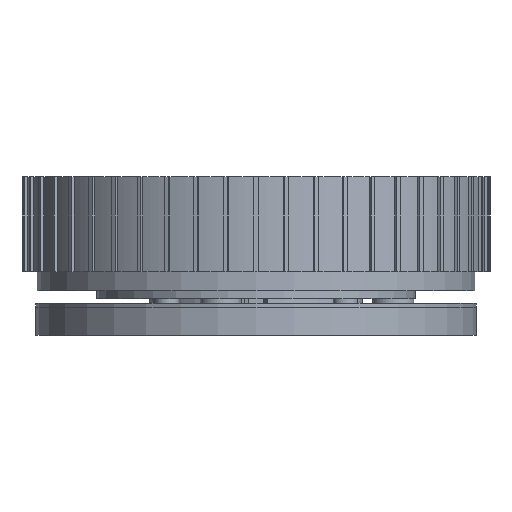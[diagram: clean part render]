
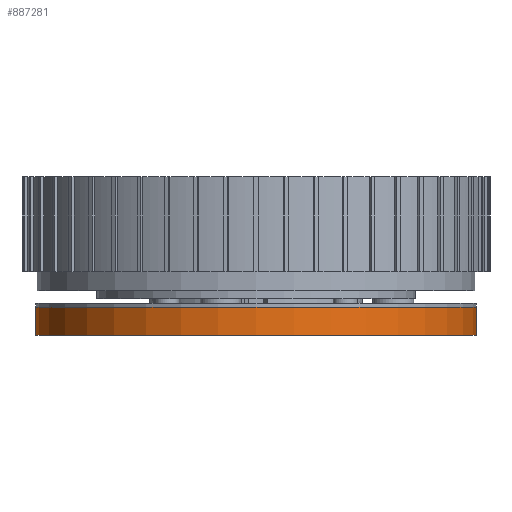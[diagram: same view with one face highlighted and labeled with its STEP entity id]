
A CAD part, front view. The second image highlights one B-rep face of the part: STEP entity #887281.
In plain terms, the highlighted cylindrical face has radius 29 mm (diameter 58 mm), a full revolution.
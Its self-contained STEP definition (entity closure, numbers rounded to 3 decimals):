
#886628 = EDGE_CURVE('',#886629,#886629,#886631,.T.);
#886629 = VERTEX_POINT('',#886630);
#886630 = CARTESIAN_POINT('',(29.,0.,0.2));
#886631 = SURFACE_CURVE('',#886632,(#886637,#886649),.PCURVE_S1.);
#886632 = CIRCLE('',#886633,29.);
#886633 = AXIS2_PLACEMENT_3D('',#886634,#886635,#886636);
#886634 = CARTESIAN_POINT('',(0.,0.,0.2));
#886635 = DIRECTION('',(0.,0.,1.));
#886636 = DIRECTION('',(1.,0.,-0.));
#886637 = PCURVE('',#886638,#886643);
#886638 = PLANE('',#886639);
#886639 = AXIS2_PLACEMENT_3D('',#886640,#886641,#886642);
#886640 = CARTESIAN_POINT('',(0.,0.,0.2
    ));
#886641 = DIRECTION('',(0.,0.,1.));
#886642 = DIRECTION('',(1.,0.,-0.));
#886643 = DEFINITIONAL_REPRESENTATION('',(#886644),#886648);
#886644 = CIRCLE('',#886645,29.);
#886645 = AXIS2_PLACEMENT_2D('',#886646,#886647);
#886646 = CARTESIAN_POINT('',(0.,0.));
#886647 = DIRECTION('',(1.,0.));
#886648 = ( GEOMETRIC_REPRESENTATION_CONTEXT(2) 
PARAMETRIC_REPRESENTATION_CONTEXT() REPRESENTATION_CONTEXT('2D SPACE',''
  ) );
#886649 = PCURVE('',#886650,#886655);
#886650 = CYLINDRICAL_SURFACE('',#886651,29.);
#886651 = AXIS2_PLACEMENT_3D('',#886652,#886653,#886654);
#886652 = CARTESIAN_POINT('',(0.,0.,0.8));
#886653 = DIRECTION('',(-0.,-0.,-1.));
#886654 = DIRECTION('',(1.,0.,0.));
#886655 = DEFINITIONAL_REPRESENTATION('',(#886656),#886660);
#886656 = LINE('',#886657,#886658);
#886657 = CARTESIAN_POINT('',(6.283,0.6));
#886658 = VECTOR('',#886659,1.);
#886659 = DIRECTION('',(-1.,0.));
#886660 = ( GEOMETRIC_REPRESENTATION_CONTEXT(2) 
PARAMETRIC_REPRESENTATION_CONTEXT() REPRESENTATION_CONTEXT('2D SPACE',''
  ) );
#887281 = ADVANCED_FACE('',(#887282),#886650,.T.);
#887282 = FACE_BOUND('',#887283,.T.);
#887283 = EDGE_LOOP('',(#887284,#887285,#887308,#887335));
#887284 = ORIENTED_EDGE('',*,*,#886628,.T.);
#887285 = ORIENTED_EDGE('',*,*,#887286,.T.);
#887286 = EDGE_CURVE('',#886629,#887287,#887289,.T.);
#887287 = VERTEX_POINT('',#887288);
#887288 = CARTESIAN_POINT('',(29.,0.,3.9));
#887289 = SEAM_CURVE('',#887290,(#887294,#887301),.PCURVE_S1.);
#887290 = LINE('',#887291,#887292);
#887291 = CARTESIAN_POINT('',(29.,0.,0.2));
#887292 = VECTOR('',#887293,1.);
#887293 = DIRECTION('',(0.,0.,1.));
#887294 = PCURVE('',#886650,#887295);
#887295 = DEFINITIONAL_REPRESENTATION('',(#887296),#887300);
#887296 = LINE('',#887297,#887298);
#887297 = CARTESIAN_POINT('',(6.283,0.6));
#887298 = VECTOR('',#887299,1.);
#887299 = DIRECTION('',(-0.,-1.));
#887300 = ( GEOMETRIC_REPRESENTATION_CONTEXT(2) 
PARAMETRIC_REPRESENTATION_CONTEXT() REPRESENTATION_CONTEXT('2D SPACE',''
  ) );
#887301 = PCURVE('',#886650,#887302);
#887302 = DEFINITIONAL_REPRESENTATION('',(#887303),#887307);
#887303 = LINE('',#887304,#887305);
#887304 = CARTESIAN_POINT('',(0.,0.6));
#887305 = VECTOR('',#887306,1.);
#887306 = DIRECTION('',(-0.,-1.));
#887307 = ( GEOMETRIC_REPRESENTATION_CONTEXT(2) 
PARAMETRIC_REPRESENTATION_CONTEXT() REPRESENTATION_CONTEXT('2D SPACE',''
  ) );
#887308 = ORIENTED_EDGE('',*,*,#887309,.F.);
#887309 = EDGE_CURVE('',#887287,#887287,#887310,.T.);
#887310 = SURFACE_CURVE('',#887311,(#887316,#887323),.PCURVE_S1.);
#887311 = CIRCLE('',#887312,29.);
#887312 = AXIS2_PLACEMENT_3D('',#887313,#887314,#887315);
#887313 = CARTESIAN_POINT('',(0.,0.,3.9));
#887314 = DIRECTION('',(0.,0.,1.));
#887315 = DIRECTION('',(1.,0.,-0.));
#887316 = PCURVE('',#886650,#887317);
#887317 = DEFINITIONAL_REPRESENTATION('',(#887318),#887322);
#887318 = LINE('',#887319,#887320);
#887319 = CARTESIAN_POINT('',(6.283,-3.1));
#887320 = VECTOR('',#887321,1.);
#887321 = DIRECTION('',(-1.,0.));
#887322 = ( GEOMETRIC_REPRESENTATION_CONTEXT(2) 
PARAMETRIC_REPRESENTATION_CONTEXT() REPRESENTATION_CONTEXT('2D SPACE',''
  ) );
#887323 = PCURVE('',#887324,#887329);
#887324 = CYLINDRICAL_SURFACE('',#887325,29.);
#887325 = AXIS2_PLACEMENT_3D('',#887326,#887327,#887328);
#887326 = CARTESIAN_POINT('',(0.,0.,0.2));
#887327 = DIRECTION('',(-0.,-0.,-1.));
#887328 = DIRECTION('',(1.,0.,0.));
#887329 = DEFINITIONAL_REPRESENTATION('',(#887330),#887334);
#887330 = LINE('',#887331,#887332);
#887331 = CARTESIAN_POINT('',(-0.,-3.7));
#887332 = VECTOR('',#887333,1.);
#887333 = DIRECTION('',(-1.,0.));
#887334 = ( GEOMETRIC_REPRESENTATION_CONTEXT(2) 
PARAMETRIC_REPRESENTATION_CONTEXT() REPRESENTATION_CONTEXT('2D SPACE',''
  ) );
#887335 = ORIENTED_EDGE('',*,*,#887286,.F.);
